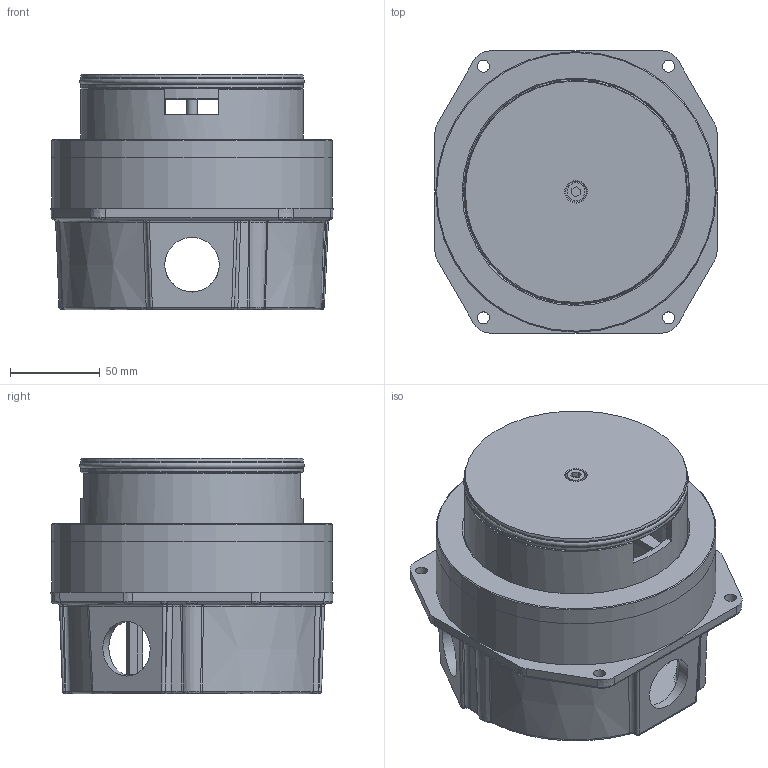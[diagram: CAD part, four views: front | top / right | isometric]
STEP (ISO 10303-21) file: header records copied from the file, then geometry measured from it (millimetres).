
FILE_DESCRIPTION(/* description */ (''),/* implementation_level */ '2;1');
FILE_NAME(/* name */ 'Fonto 50000_Wasserschutzrohr.stp',/* time_stamp */ '2023-11-07T09:15:12+01:00',/* author */ ('stangass'),/* organization */ (''),/* preprocessor_version */ 'ST-DEVELOPER v19.2',/* originating_system */ 'Autodesk Inventor 2023',/* authorisation */ '');
FILE_SCHEMA (('AUTOMOTIVE_DESIGN { 1 0 10303 214 3 1 1 }'));
Products named in the file (18): 2140421_3DINV; 1735774_3DINV; #38100; DIN 125 - A 5,3; DIN 127 - A 5; 2311.250; 2040195_3DINV; 2040196; 2140424_3DINV; ISO 3601-1 - C 1180 G; 912A2670; DIN 126 - 6,6; 2040205_3DINV; 2040202_3DINV; IMS 1705016AKAFIGMUTTER M6 1,2 - 1,6 MM EDELSTAHL-KAFIG (1.4301)(1.2); 2040197_3DINV; DIN 912 - M5 x 8; Cylinder head screw DIN 912 M5x80 07000.050.080(High)
Assembly tree (28 placements, depth 2):
  2140421_3DINV
    1735774_3DINV
    #38100
    DIN 912 - M5 x 8  x5
    DIN 125 - A 5,3
    DIN 127 - A 5
    2311.250  x4
    2040195_3DINV
    2140424_3DINV  x2
    2040196
    ISO 3601-1 - C 1180 G  x2
    912A2670
    DIN 126 - 6,6
    2040205_3DINV
    2040202_3DINV
    IMS 1705016AKAFIGMUTTER M6 1,2 - 1,6 MM EDELSTAHL-KAFIG (1.4301)(1.2)
    2040197_3DINV
    Cylinder head screw DIN 912 M5x80 07000.050.080(High)  x3
Bounding box: 156.9 x 156.9 x 130.87 mm (x, y, z)
Volume: 774630 mm3; surface area: 282606.2 mm2
Topology: 28 solids, 28 shells, 901 faces, 2186 edges, 1338 vertices
Faces by surface type: plane 326, cylinder 239, bspline 180, cone 129, torus 27
Full cylindrical faces by diameter (mm): 3.683 x1, 3.708 x1, 4.134 x8, 4.521 x1, 4.917 x1, 5 x15, 5.2 x4, 5.207 x1, 5.3 x1, 5.5 x11, 6 x3, 6.6 x1, 6.647 x4, 8.5 x8, 10 x2, 11.5 x1, 12 x4, 30.376 x4, 108 x1, 109 x1, 116 x1, 117 x1, 119.7 x2, 124 x4, 125 x2, 140 x2, 144.6 x2, 156 x2
Entity records: 38065 total; most frequent: CARTESIAN_POINT 21014, ORIENTED_EDGE 3422, DIRECTION 3314, EDGE_CURVE 1711, AXIS2_PLACEMENT_3D 1305, VERTEX_POINT 1064, EDGE_LOOP 825, FACE_OUTER_BOUND 710
